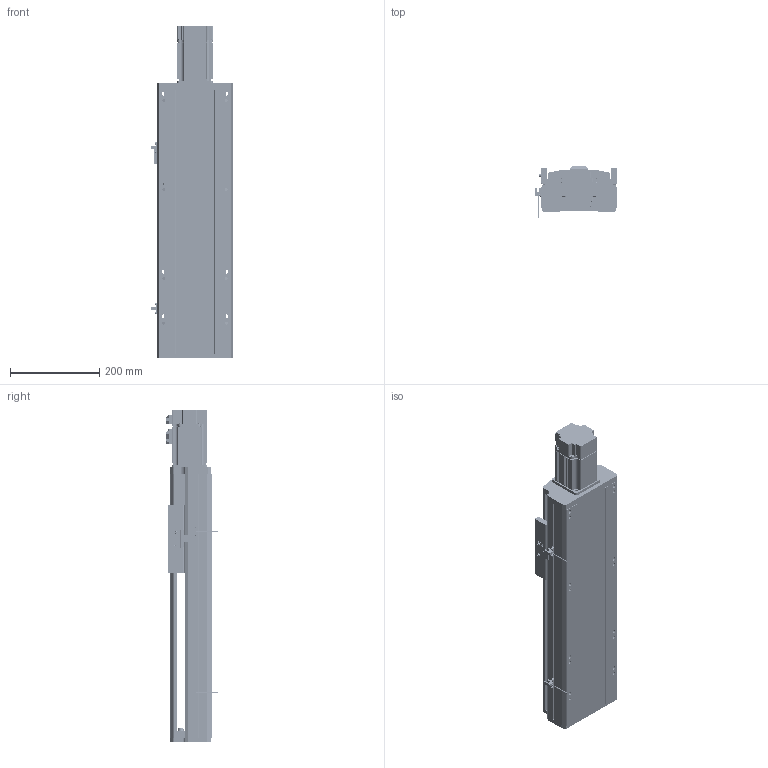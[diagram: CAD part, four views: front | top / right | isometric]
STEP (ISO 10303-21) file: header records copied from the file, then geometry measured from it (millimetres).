
FILE_DESCRIPTION (( 'STEP AP214' ), '1' );
FILE_NAME ('CTH170-350.STEP', '2019-11-25T08:49:54', ( '微软用户' ), ( '微软中国' ), 'SwSTEP 2.0', 'SolidWorks 2017', '' );
FILE_SCHEMA (( 'AUTOMOTIVE_DESIGN' ));
Length unit declared in the file: millimetre
Products named in the file (32): 錨璃2; 复件 轴承座^装配体3_CTH170-L10-200; 佪話盓傅釱^CTH170-L10-200; CTH170-350; M5-L16囀鞠褒蹟佪; 遣喳蝶15x12x8-BR L; 支撑座^丝杠支撑座_CTH170-L10-200; B6002Z; _C-BSST2005_n; SFS2005-411-SZC; SFH2010佪裝; M3-L8囀鞠褒蹟佪; 80EMA-016A; EE-SX672峚倰換覜ん; 170萇儂啣; CT17耀郪-覜茼んえ; 170傷啣; M6-L20囀鞠褒蹟佪; EGH20CA; 蚾饜极3^CTH170-L10-200; M5-L20囀鞠褒蹟佪-BR L; M4-L10囀鞠褒蹟佪-BR L; M5-L10囀鞠褒蹟佪; 坶踡蹟簽M15x1; EGH20CA_BLOCK; 潔路遠COL15-A; EG20_RAIL; MISUMI_B7002-DB_盄俶絳砃粣; 170賑怢; BEARING_MISUMI_B7002-DB_盄俶絳砃粣; 170裔啣^CTH170-L10-200; 錨璃8^蚾饜极3_CTH170-L10-200
Assembly tree (79 placements, depth 4):
  CTH170-350
    錨璃2
    170裔啣^CTH170-L10-200
    170賑怢
    EGH20CA  x2
      EG20_RAIL
      EGH20CA_BLOCK
      M5-L10囀鞠褒蹟佪
      M5-L20囀鞠褒蹟佪-BR L
    170傷啣
    170萇儂啣
    80EMA-016A
    SFS2005-411-SZC
      SFH2010佪裝
    _C-BSST2005_n
    佪話盓傅釱^CTH170-L10-200
      B6002Z
      支撑座^丝杠支撑座_CTH170-L10-200
      遣喳蝶15x12x8-BR L  x2
      M5-L16囀鞠褒蹟佪  x2
    蚾饜极3^CTH170-L10-200
      复件 轴承座^装配体3_CTH170-L10-200
      錨璃8^蚾饜极3_CTH170-L10-200
      MISUMI_B7002-DB_盄俶絳砃粣
        BEARING_MISUMI_B7002-DB_盄俶絳砃粣  x2
      潔路遠COL15-A  x2
      坶踡蹟簽M15x1
      M5-L16囀鞠褒蹟佪  x6
      M4-L10囀鞠褒蹟佪-BR L  x4
    遣喳蝶15x12x8-BR L  x2
    M6-L20囀鞠褒蹟佪  x4
    M4-L10囀鞠褒蹟佪-BR L  x10
    M5-L16囀鞠褒蹟佪  x4
    CT17耀郪-覜茼んえ
    EE-SX672峚倰換覜ん  x2
    M3-L8囀鞠褒蹟佪  x4
Bounding box: 183.7 x 117.95 x 746 mm (x, y, z)
Volume: 4778030.1 mm3; surface area: 1386940.2 mm2
Topology: 91 solids, 92 shells, 5535 faces, 14489 edges, 9244 vertices
Faces by surface type: plane 3102, cylinder 1438, cone 613, bspline 342, torus 40
Entity records: 97966 total; most frequent: CARTESIAN_POINT 20843, ORIENTED_EDGE 14068, DIRECTION 13677, EDGE_CURVE 7034, AXIS2_PLACEMENT_3D 4740, VERTEX_POINT 4572, LINE 4197, VECTOR 4197
